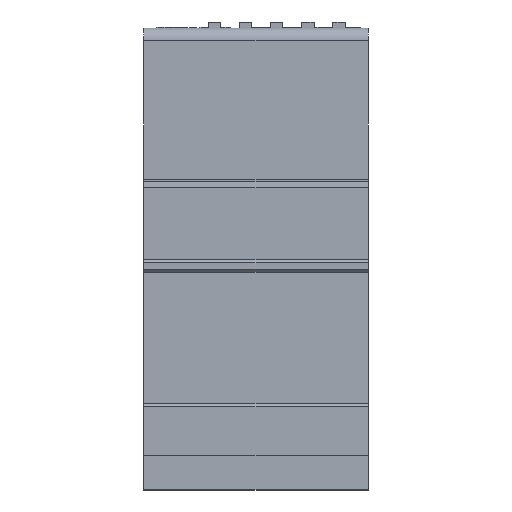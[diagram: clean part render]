
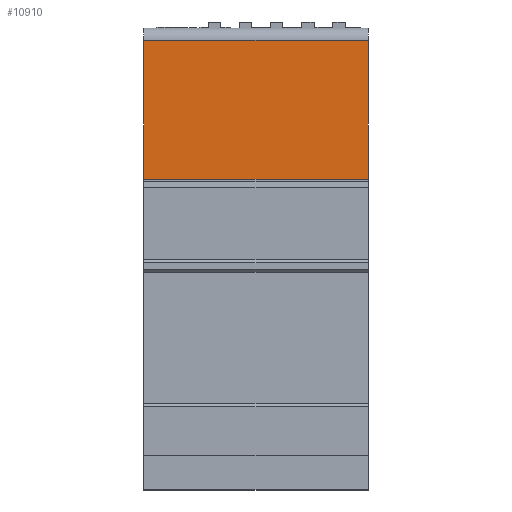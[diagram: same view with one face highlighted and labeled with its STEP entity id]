
A CAD part, front view. The second image highlights one B-rep face of the part: STEP entity #10910.
In plain terms, the highlighted planar face has unit normal (0, -1, 0).
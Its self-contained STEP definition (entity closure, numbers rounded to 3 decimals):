
#1030=FACE_OUTER_BOUND('',#1648,.T.);
#1648=EDGE_LOOP('',(#8548,#8549,#8550,#8551));
#2262=LINE('',#16339,#3419);
#2610=LINE('',#18047,#3767);
#2611=LINE('',#18050,#3768);
#2612=LINE('',#18051,#3769);
#3419=VECTOR('',#12381,10.);
#3767=VECTOR('',#12979,10.);
#3768=VECTOR('',#12982,10.);
#3769=VECTOR('',#12983,10.);
#4580=VERTEX_POINT('',#16336);
#4581=VERTEX_POINT('',#16338);
#4886=VERTEX_POINT('',#18045);
#4887=VERTEX_POINT('',#18049);
#5796=EDGE_CURVE('',#4580,#4581,#2262,.T.);
#6250=EDGE_CURVE('',#4886,#4581,#2610,.T.);
#6251=EDGE_CURVE('',#4887,#4886,#2611,.T.);
#6252=EDGE_CURVE('',#4887,#4580,#2612,.T.);
#8548=ORIENTED_EDGE('',*,*,#6251,.T.);
#8549=ORIENTED_EDGE('',*,*,#6250,.T.);
#8550=ORIENTED_EDGE('',*,*,#5796,.F.);
#8551=ORIENTED_EDGE('',*,*,#6252,.F.);
#10329=PLANE('',#11428);
#10910=ADVANCED_FACE('',(#1030),#10329,.T.);
#11428=AXIS2_PLACEMENT_3D('',#18048,#12980,#12981);
#12381=DIRECTION('',(0.,0.,-1.));
#12979=DIRECTION('',(1.,0.,0.));
#12980=DIRECTION('center_axis',(0.,-1.,0.));
#12981=DIRECTION('ref_axis',(0.,0.,-1.));
#12982=DIRECTION('',(0.,0.,-1.));
#12983=DIRECTION('',(1.,0.,0.));
#16336=CARTESIAN_POINT('',(36.,-27.145,42.576));
#16338=CARTESIAN_POINT('',(36.,-27.145,19.978));
#16339=CARTESIAN_POINT('',(36.,-27.145,42.878));
#18045=CARTESIAN_POINT('',(0.,-27.145,19.978));
#18047=CARTESIAN_POINT('',(0.,-27.145,19.978));
#18048=CARTESIAN_POINT('Origin',(0.,-27.145,42.576));
#18049=CARTESIAN_POINT('',(0.,-27.145,42.576));
#18050=CARTESIAN_POINT('',(0.,-27.145,42.878));
#18051=CARTESIAN_POINT('',(0.,-27.145,42.576));
